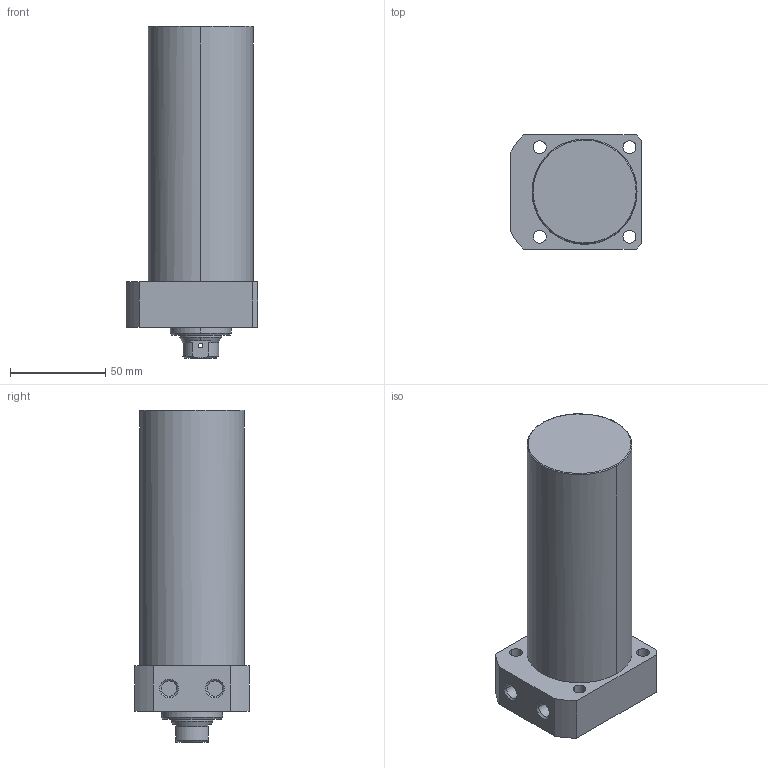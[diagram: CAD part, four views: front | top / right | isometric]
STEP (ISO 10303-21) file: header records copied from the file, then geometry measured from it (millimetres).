
FILE_DESCRIPTION((' '),'2;1');
FILE_NAME( 'TLLR-055CB-105.STEP.stp', '2025-10-24T16:34:45', (' '), ('--- Datakit www.datakit.com---'), ' Datakit CrossCadWare V2024.1 Dec 21 2023', 'Mastercam 2025', ' ');
FILE_SCHEMA(('AUTOMOTIVE_DESIGN { 1 0 10303 214 1 1 1 1 }'));
Length unit declared in the file: millimetre
Products named in the file (1): TLLR-055CB-105
Bounding box: 69 x 60 x 174 mm (x, y, z)
Volume: 415946.4 mm3; surface area: 41489 mm2
Topology: 1 solids, 1 shells, 67 faces, 197 edges, 136 vertices
Faces by surface type: cylinder 32, plane 19, cone 14, torus 2
Entity records: 3058 total; most frequent: CARTESIAN_POINT 1139, DIRECTION 426, ORIENTED_EDGE 390, EDGE_CURVE 195, AXIS2_PLACEMENT_3D 179, VERTEX_POINT 136, CIRCLE 111, EDGE_LOOP 85
